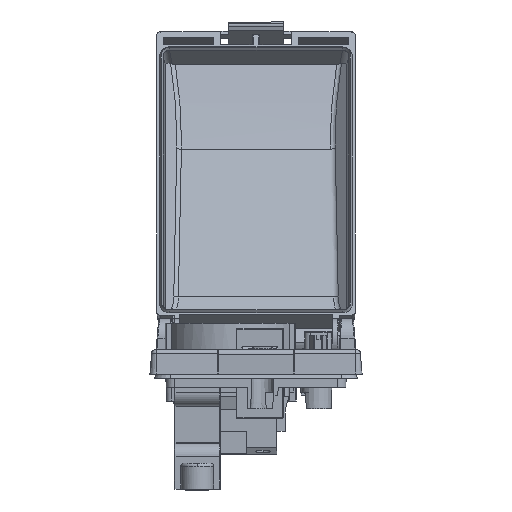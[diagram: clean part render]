
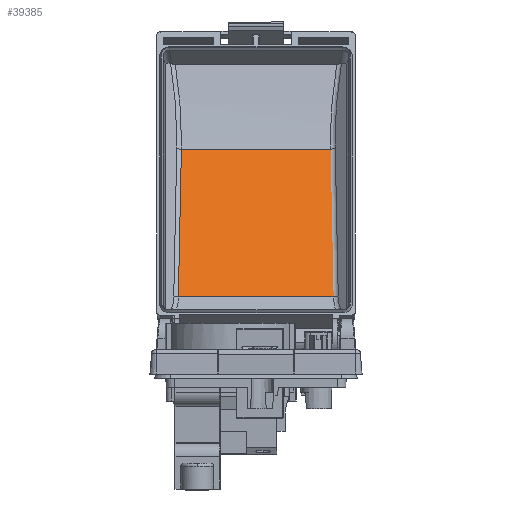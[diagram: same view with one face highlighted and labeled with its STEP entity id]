
A CAD part, left-side view. The second image highlights one B-rep face of the part: STEP entity #39385.
In plain terms, the highlighted planar face has unit normal (-0.865, 0, 0.502).
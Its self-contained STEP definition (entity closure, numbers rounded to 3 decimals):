
#2888 = EDGE_LOOP ( 'NONE', ( #35715, #74743, #52176, #92790 ) ) ;
#3305 = PLANE ( 'NONE',  #85541 ) ;
#7990 = CARTESIAN_POINT ( 'NONE',  ( 71.612, 189.435, 16.093 ) ) ;
#7991 = CARTESIAN_POINT ( 'NONE',  ( 97.905, 189.435, 61.35 ) ) ;
#19687 = CARTESIAN_POINT ( 'NONE',  ( 97.905, 196.988, 61.35 ) ) ;
#22051 = VECTOR ( 'NONE', #50939, 1000. ) ;
#22507 = CARTESIAN_POINT ( 'NONE',  ( 97.905, 196.988, 61.35 ) ) ;
#25867 = VERTEX_POINT ( 'NONE', #61270 ) ;
#26760 = LINE ( 'NONE', #81897, #22051 ) ;
#30449 = DIRECTION ( 'NONE',  ( 0., 1., 0. ) ) ;
#31759 = EDGE_CURVE ( 'NONE', #90481, #50966, #26760, .T. ) ;
#33678 = LINE ( 'NONE', #7990, #58550 ) ;
#35715 = ORIENTED_EDGE ( 'NONE', *, *, #67974, .F. ) ;
#39385 = ADVANCED_FACE ( 'NONE', ( #40738 ), #3305, .F. ) ;
#39989 = CARTESIAN_POINT ( 'NONE',  ( 97.905, 189.435, 61.35 ) ) ;
#40738 = FACE_OUTER_BOUND ( 'NONE', #2888, .T. ) ;
#41848 = CARTESIAN_POINT ( 'NONE',  ( 89.141, 196.683, 46.264 ) ) ;
#43220 = CARTESIAN_POINT ( 'NONE',  ( 71.612, 243.595, 16.093 ) ) ;
#46243 = EDGE_CURVE ( 'NONE', #92567, #50966, #57241, .T. ) ;
#50939 = DIRECTION ( 'NONE',  ( 0.502, -0.017, 0.865 ) ) ;
#50966 = VERTEX_POINT ( 'NONE', #55785 ) ;
#52176 = ORIENTED_EDGE ( 'NONE', *, *, #46243, .T. ) ;
#55785 = CARTESIAN_POINT ( 'NONE',  ( 97.905, 242.682, 61.35 ) ) ;
#56107 = VECTOR ( 'NONE', #30449, 1000. ) ;
#57241 = LINE ( 'NONE', #7991, #56107 ) ;
#57425 = CARTESIAN_POINT ( 'NONE',  ( 71.612, 196.074, 16.093 ) ) ;
#57705 = EDGE_CURVE ( 'NONE', #25867, #92567, #59944, .T. ) ;
#58550 = VECTOR ( 'NONE', #67803, 1000. ) ;
#59944 = B_SPLINE_CURVE_WITH_KNOTS ( 'NONE', 3,
 ( #57425, #71875, #41848, #19687 ),
 .UNSPECIFIED., .F., .F.,
 ( 4, 4 ),
 ( 0., 1. ),
 .UNSPECIFIED. ) ;
#61270 = CARTESIAN_POINT ( 'NONE',  ( 71.612, 196.074, 16.093 ) ) ;
#67803 = DIRECTION ( 'NONE',  ( 0., 1., 0. ) ) ;
#67974 = EDGE_CURVE ( 'NONE', #25867, #90481, #33678, .T. ) ;
#70353 = DIRECTION ( 'NONE',  ( -0.502, 0., -0.865 ) ) ;
#71875 = CARTESIAN_POINT ( 'NONE',  ( 80.377, 196.379, 31.179 ) ) ;
#74743 = ORIENTED_EDGE ( 'NONE', *, *, #57705, .T. ) ;
#81897 = CARTESIAN_POINT ( 'NONE',  ( 71.612, 243.595, 16.093 ) ) ;
#85541 = AXIS2_PLACEMENT_3D ( 'NONE', #39989, #92759, #70353 ) ;
#90481 = VERTEX_POINT ( 'NONE', #43220 ) ;
#92567 = VERTEX_POINT ( 'NONE', #22507 ) ;
#92759 = DIRECTION ( 'NONE',  ( 0.865, 0., -0.502 ) ) ;
#92790 = ORIENTED_EDGE ( 'NONE', *, *, #31759, .F. ) ;
